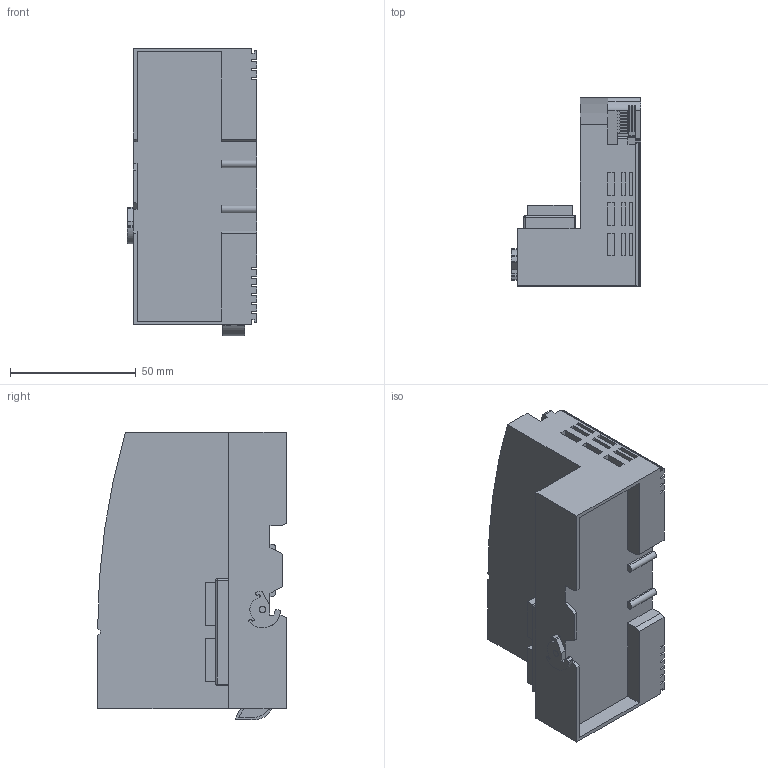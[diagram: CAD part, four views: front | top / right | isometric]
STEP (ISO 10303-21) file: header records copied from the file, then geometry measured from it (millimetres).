
FILE_DESCRIPTION (( 'STEP AP214' ), '1' );
FILE_NAME ('CN8032-L.STEP', '2024-03-07T02:42:28', ( '' ), ( '' ), 'SwSTEP 2.0', 'SolidWorks 2021', '' );
FILE_SCHEMA (( 'AUTOMOTIVE_DESIGN' ));
Length unit declared in the file: millimetre
Products named in the file (1): CN8032-L
Bounding box: 51.3 x 75 x 114.4 mm (x, y, z)
Volume: 218013.3 mm3; surface area: 44119.5 mm2
Topology: 1 solids, 1 shells, 824 faces, 2229 edges, 1479 vertices
Faces by surface type: plane 703, bspline 69, cylinder 48, sphere 4
Entity records: 28926 total; most frequent: CARTESIAN_POINT 8524, ORIENTED_EDGE 4450, DIRECTION 3694, EDGE_CURVE 2225, LINE 1988, VECTOR 1988, VERTEX_POINT 1479, EDGE_LOOP 902
